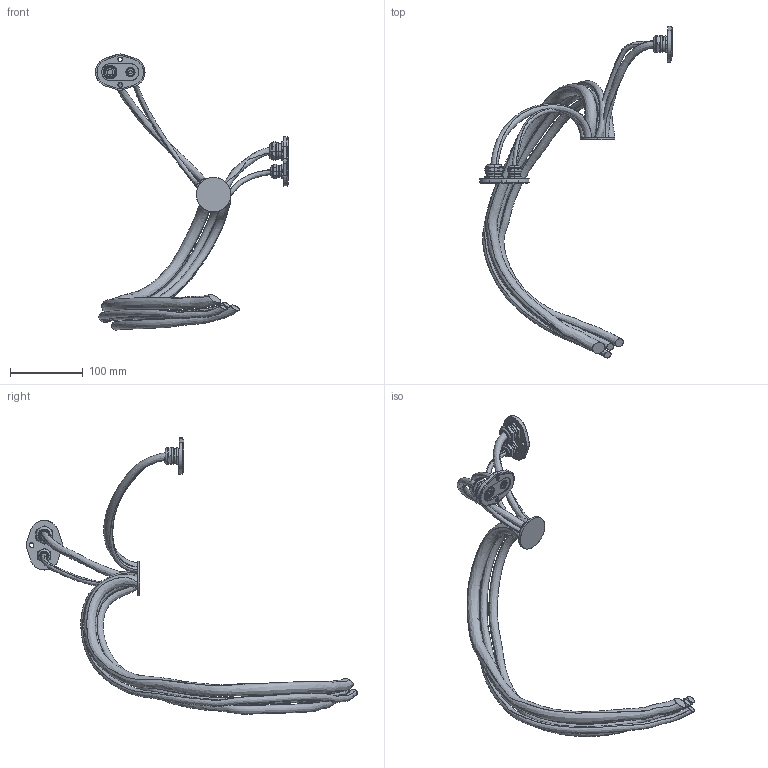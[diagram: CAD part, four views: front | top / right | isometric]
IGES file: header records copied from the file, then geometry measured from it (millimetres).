
Start section: SolidWorks IGES file using analytic representation for surfaces
Global section: file name: C:\Data\Lättmodeller\Nytt\2600\2600_IRC5_IGES_j\IRB2600_12-165_CABLES_LINK1a_rev00.IGS; native system: SolidWorks 2014; preprocessor: SolidWorks 2014; author: seadbov; date: 161202.113337; units: millimetre
Bounding box: 264.94 x 455.4 x 379.16 mm (x, y, z)
Surface area: 148698.9 mm2 (no closed solid volume)
Topology: 0 solids, 0 shells, 535 faces, 8157 edges, 8140 vertices
Faces by surface type: revolution 342, bspline 193
